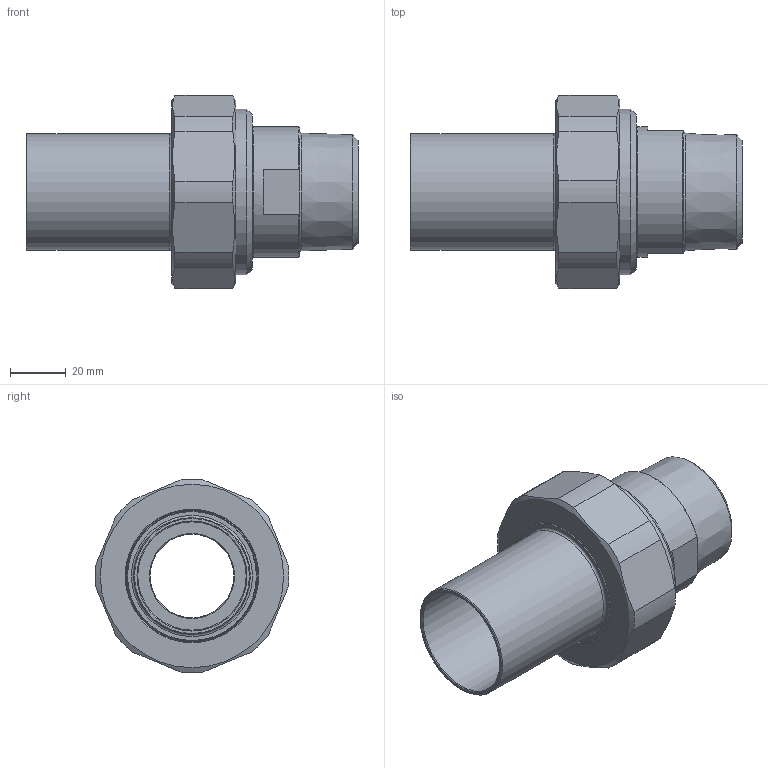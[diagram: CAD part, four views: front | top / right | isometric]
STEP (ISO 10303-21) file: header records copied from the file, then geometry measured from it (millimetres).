
FILE_DESCRIPTION(/* description */ (''),/* implementation_level */ '2;1');
FILE_NAME(/* name */ 'C:\Users\cad\Desktop\Zeichnungen neu von Ralph\Ganze Kupplungen\3D_Kupplung-R666-PE-UG\3D_R666-PE-UG-42-DN50-DN32_1711309706.stp',/* time_stamp */ '2021-07-16T13:02:48+02:00',/* author */ ('cad'),/* organization */ (''),/* preprocessor_version */ 'ST-DEVELOPER v18.1',/* originating_system */ 'Autodesk Inventor 2022',/* authorisation */ '');
FILE_SCHEMA (('AUTOMOTIVE_DESIGN { 1 0 10303 214 3 1 1 }'));
Length unit declared in the file: millimetre
Products named in the file (4): 3D_R666-PE-UG-42-DN50-DN32_1711309706; 3D_R666-M-DN50_17113960; 3D_R666-UG-DN32-DN50_17113650; 3D_R666-PE-42-DN50_17113483
Assembly tree (3 placements, depth 2):
  3D_R666-PE-UG-42-DN50-DN32_1711309706
    3D_R666-M-DN50_17113960
    3D_R666-UG-DN32-DN50_17113650
    3D_R666-PE-42-DN50_17113483
Bounding box: 119.5 x 69.68 x 69.65 mm (x, y, z)
Volume: 113426.5 mm3; surface area: 47782.7 mm2
Topology: 3 solids, 3 shells, 67 faces, 167 edges, 111 vertices
Faces by surface type: plane 23, cone 20, cylinder 18, torus 6
Full cylindrical faces by diameter (mm): 30 x1, 39 x1, 42 x1, 47 x2, 47.5 x1, 54.5 x1, 56.656 x1, 59.5 x1, 60 x1
Entity records: 2183 total; most frequent: CARTESIAN_POINT 392, DIRECTION 390, ORIENTED_EDGE 334, AXIS2_PLACEMENT_3D 169, EDGE_CURVE 167, VERTEX_POINT 111, CIRCLE 95, EDGE_LOOP 78
